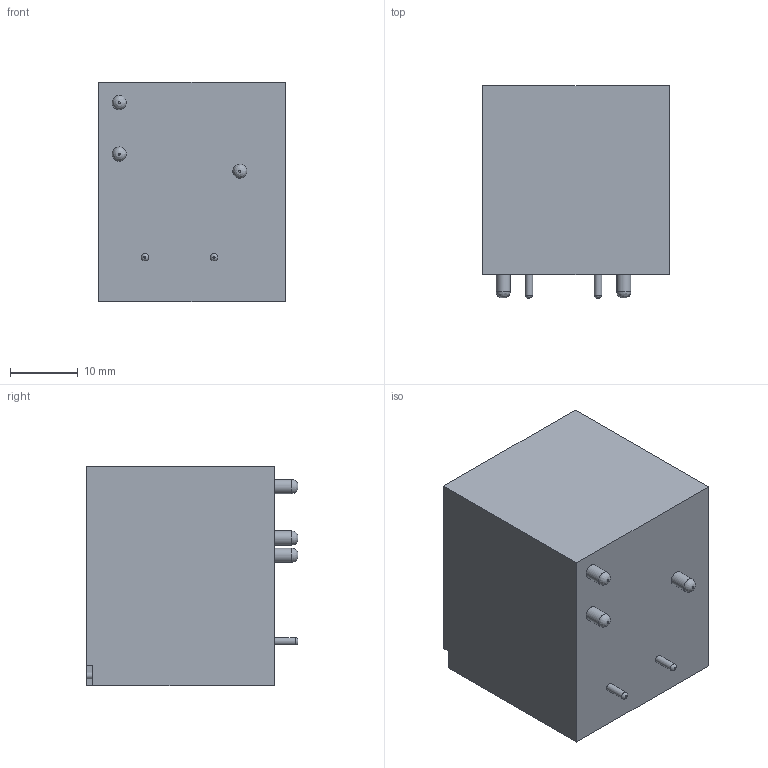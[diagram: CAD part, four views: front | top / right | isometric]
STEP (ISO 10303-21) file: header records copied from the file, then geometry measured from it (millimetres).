
FILE_DESCRIPTION(/* description */ ('','CAx-IF Rec.Pracs.---Representation and Presentation of Product Manufacturing Information (PMI)---4.0---2014-10-13'),/* implementation_level */ '2;1');
FILE_NAME(/* name */ 'Untitled.step',/* time_stamp */ '2025-02-05T15:30:21+01:00',/* author */ (''),/* organization */ (''),/* preprocessor_version */ 'ST-DEVELOPER v20',/* originating_system */ 'Autodesk Translation Framework v13.20.0.188',/* authorisation */ '');
FILE_SCHEMA (('AP242_MANAGED_MODEL_BASED_3D_ENGINEERING_MIM_LF { 1 0 10303 442 1 1 4 }'));
Length unit declared in the file: millimetre
Products named in the file (2): (Unsaved); Component1
Assembly tree (1 placements, depth 2):
  (Unsaved)
    Component1
Bounding box: 27.5 x 31.3 x 32.4 mm (x, y, z)
Volume: 23836.1 mm3; surface area: 7068.8 mm2
Topology: 6 solids, 6 shells, 73 faces, 162 edges, 108 vertices
Faces by surface type: plane 56, cylinder 12, bspline 5
Full cylindrical faces by diameter (mm): 1 x1, 1.1 x2, 2.1 x3
Entity records: 2214 total; most frequent: CARTESIAN_POINT 476, DIRECTION 343, ORIENTED_EDGE 324, EDGE_CURVE 162, LINE 123, VECTOR 123, AXIS2_PLACEMENT_3D 110, VERTEX_POINT 108
